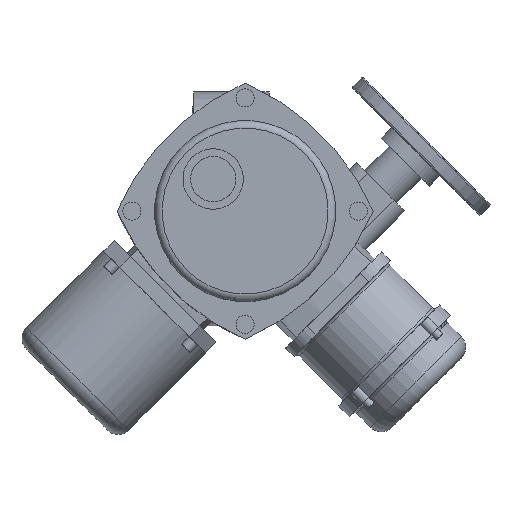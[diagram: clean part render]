
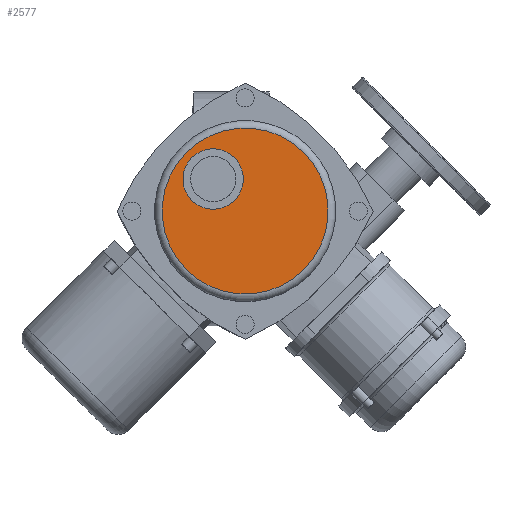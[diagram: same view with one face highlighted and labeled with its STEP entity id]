
A CAD part, top view. The second image highlights one B-rep face of the part: STEP entity #2577.
In plain terms, the highlighted planar face has unit normal (0, 0, 1).
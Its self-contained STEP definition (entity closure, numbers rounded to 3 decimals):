
#2577=ADVANCED_FACE('',(#4981,#4983),#4985,.T.);
#4981=FACE_BOUND('',#4982,.T.);
#4982=EDGE_LOOP('',(#6417));
#4983=FACE_BOUND('',#4984,.T.);
#4984=EDGE_LOOP('',(#6418));
#4985=PLANE('',#4986);
#4986=AXIS2_PLACEMENT_3D('',#4987,#4988,#4989);
#4987=CARTESIAN_POINT('',(9.192,-2.121,338.));
#4988=DIRECTION('',(0.,0.,1.));
#4989=DIRECTION('',(0.707,0.707,0.));
#6417=ORIENTED_EDGE('',*,*,#7062,.T.);
#6418=ORIENTED_EDGE('',*,*,#7123,.F.);
#7062=EDGE_CURVE('',#8116,#8116,#8117,.T.);
#7123=EDGE_CURVE('',#8208,#8208,#8209,.T.);
#8116=VERTEX_POINT('',#12842);
#8117=CIRCLE('',#12843,55.);
#8208=VERTEX_POINT('',#13099);
#8209=CIRCLE('',#13100,20.);
#12842=CARTESIAN_POINT('',(48.083,36.77,338.));
#12843=AXIS2_PLACEMENT_3D('',#12844,#12845,#12846);
#12844=CARTESIAN_POINT('',(9.192,-2.121,338.));
#12845=DIRECTION('',(0.,0.,1.));
#12846=DIRECTION('',(0.707,0.707,0.));
#13099=CARTESIAN_POINT('',(2.121,33.234,338.));
#13100=AXIS2_PLACEMENT_3D('',#13101,#13102,#13103);
#13101=CARTESIAN_POINT('',(-12.021,19.092,338.));
#13102=DIRECTION('',(0.,0.,1.));
#13103=DIRECTION('',(0.707,0.707,0.));
